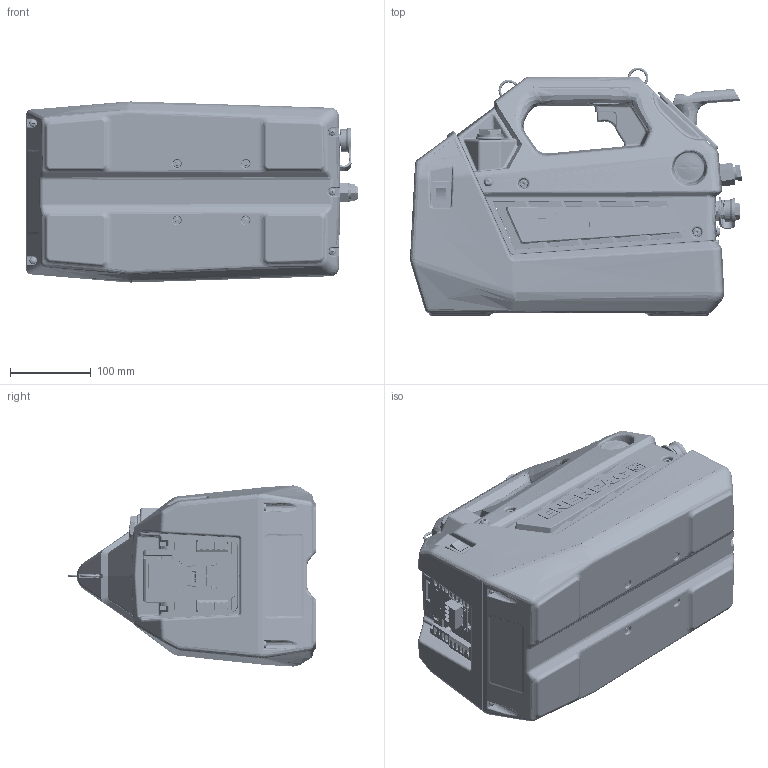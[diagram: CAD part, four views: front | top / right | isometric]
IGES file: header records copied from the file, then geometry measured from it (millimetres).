
Start section:  PTC IGES file: XC2402M.igs
Global section: file name: XC2402M.igs; native system: Creo Parametric by PTC Inc.; preprocessor: 2020454; author: Steve.Held; organization: Unknown; date: 20240214.080650; units: millimetre
Bounding box: 410.88 x 307.71 x 224.06 mm (x, y, z)
Surface area: 1846163.8 mm2 (no closed solid volume)
Topology: 0 solids, 0 shells, 10629 faces, 60089 edges, 59976 vertices
Faces by surface type: bspline 6078, revolution 4486, extrusion 65
